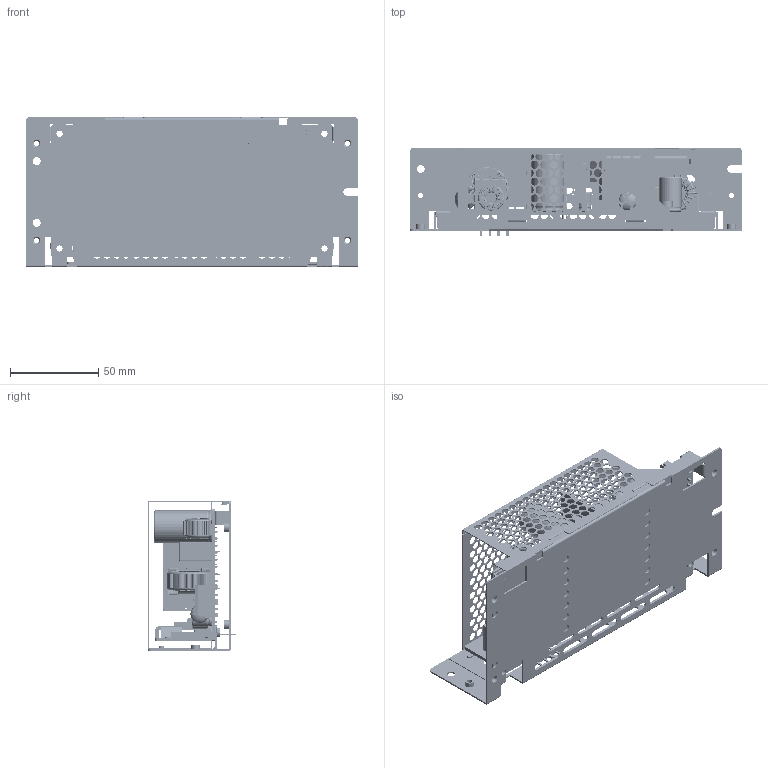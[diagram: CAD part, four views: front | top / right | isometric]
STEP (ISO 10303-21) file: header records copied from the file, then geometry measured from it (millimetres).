
FILE_DESCRIPTION((''),'2;1');
FILE_NAME('JAP_150W_ASM_ASM','2012-11-16T',('ERIC.YP.CHEN'),(''),'PRO/ENGINEER BY PARAMETRIC TECHNOLOGY CORPORATION, 2010280','PRO/ENGINEER BY PARAMETRIC TECHNOLOGY CORPORATION, 2010280','');
FILE_SCHEMA(('CONFIG_CONTROL_DESIGN'));
Length unit declared in the file: millimetre
Products named in the file (1): JAP_150W_ASM_ASM
Bounding box: 188 x 50.2 x 85 mm (x, y, z)
Volume: 3991.7 mm3; surface area: 141912.5 mm2
Topology: 19 solids, 220 shells, 5129 faces, 14279 edges, 8967 vertices
Faces by surface type: cylinder 2701, plane 1608, torus 457, bspline 248, sphere 65, revolution 26, cone 24
Entity records: 210478 total; most frequent: CARTESIAN_POINT 69969, ORIENTED_EDGE 29570, DIRECTION 29409, EDGE_CURVE 14834, AXIS2_PLACEMENT_3D 11383, VERTEX_POINT 8967, EDGE_LOOP 7036, VECTOR 6617
